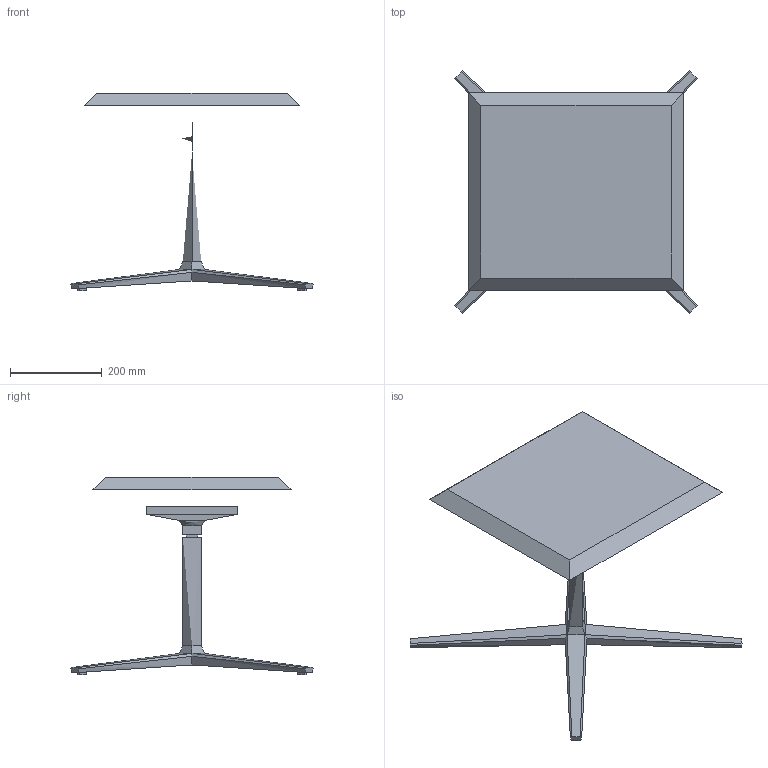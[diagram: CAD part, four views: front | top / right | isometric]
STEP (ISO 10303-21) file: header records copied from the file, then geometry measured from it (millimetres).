
FILE_DESCRIPTION(/* description */ (''),/* implementation_level */ '2;1');
FILE_NAME(/* name */ 'FLEXIT~1',/* time_stamp */ '2015-11-09T21:16:46+01:00',/* author */ (''),/* organization */ (''),/* preprocessor_version */ 'ST-DEVELOPER v15',/* originating_system */ '',/* authorisation */ '');
FILE_SCHEMA (('CONFIG_CONTROL_DESIGN'));
Length unit declared in the file: millimetre
Products named in the file (1): Document
Bounding box: 529.7 x 529.7 x 430.7 mm (x, y, z)
Volume: 9895368.9 mm3; surface area: 744933.6 mm2
Topology: 1 solids, 7 shells, 70 faces, 166 edges, 97 vertices
Faces by surface type: bspline 53, plane 17
Entity records: 16365 total; most frequent: CARTESIAN_POINT 15373, ORIENTED_EDGE 289, EDGE_CURVE 163, VERTEX_POINT 97, EDGE_LOOP 71, ADVANCED_FACE 70, FACE_OUTER_BOUND 70, B_SPLINE_CURVE_WITH_KNOTS 56
